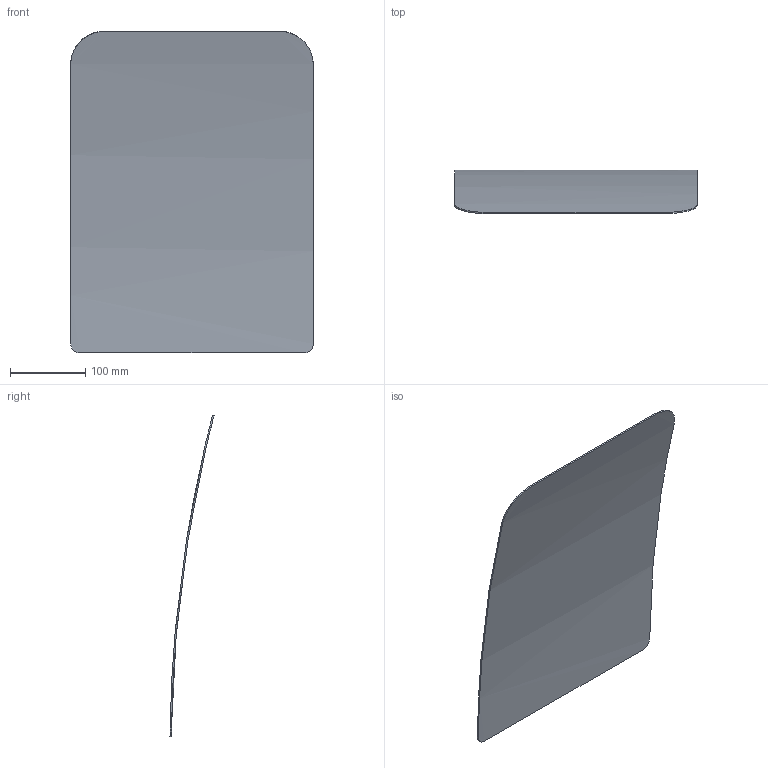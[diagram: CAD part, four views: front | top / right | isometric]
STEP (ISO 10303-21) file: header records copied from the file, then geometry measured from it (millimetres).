
FILE_DESCRIPTION(('Open CASCADE Model'),'2;1');
FILE_NAME('Open CASCADE Shape Model','2026-10-13T16:09:42',('Author'),( 'Open CASCADE'),'Open CASCADE STEP processor 7.8','Open CASCADE 7.8' ,'Unknown');
FILE_SCHEMA(('AUTOMOTIVE_DESIGN { 1 0 10303 214 1 1 1 1 }'));
Length unit declared in the file: millimetre
Products named in the file (1): Open CASCADE STEP translator 7.8 9
Bounding box: 322 x 58.47 x 427.63 mm (x, y, z)
Volume: 248838.6 mm3; surface area: 279114.5 mm2
Topology: 1 solids, 1 shells, 10 faces, 24 edges, 16 vertices
Faces by surface type: bspline 8, cylinder 2
Entity records: 972 total; most frequent: CARTESIAN_POINT 571, ORIENTED_EDGE 48, PCURVE 48, DEFINITIONAL_REPRESENTATION 48, DIRECTION 38, B_SPLINE_CURVE_WITH_KNOTS 36, LINE 32, VECTOR 32
